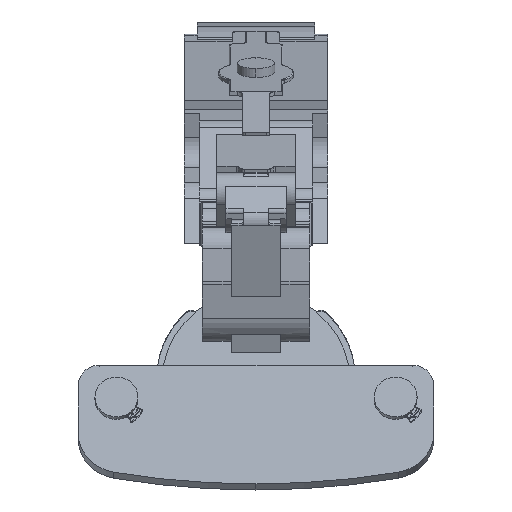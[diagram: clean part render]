
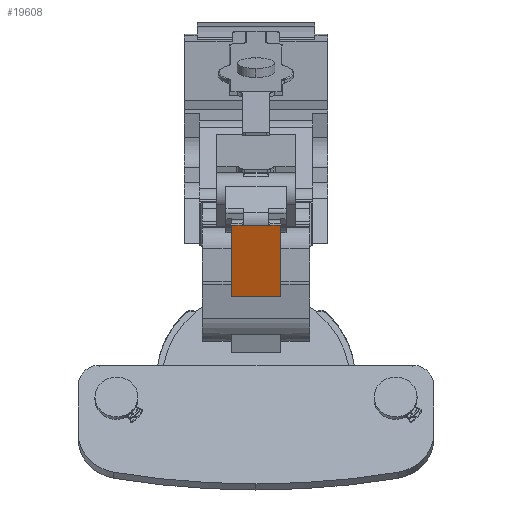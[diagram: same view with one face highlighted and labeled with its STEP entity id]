
A CAD part, top view. The second image highlights one B-rep face of the part: STEP entity #19608.
In plain terms, the highlighted planar face has unit normal (0, -0.343, 0.939).
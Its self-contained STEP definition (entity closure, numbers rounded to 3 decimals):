
#1147 = CARTESIAN_POINT ( 'NONE',  ( 17.843, 45.478, 100.393 ) ) ;
#1212 = VECTOR ( 'NONE', #10719, 1000. ) ;
#1538 = VECTOR ( 'NONE', #23998, 1000. ) ;
#2001 = EDGE_CURVE ( 'NONE', #26552, #29983, #31676, .T. ) ;
#2599 = VERTEX_POINT ( 'NONE', #31758 ) ;
#3877 = EDGE_CURVE ( 'NONE', #9944, #21295, #12889, .T. ) ;
#4025 = CARTESIAN_POINT ( 'NONE',  ( 17.443, 58.775, 105.249 ) ) ;
#4951 = DIRECTION ( 'NONE',  ( 1., 0., 0. ) ) ;
#4998 = CARTESIAN_POINT ( 'NONE',  ( 19.693, 58.775, 105.249 ) ) ;
#5673 = EDGE_CURVE ( 'NONE', #26552, #9944, #20906, .T. ) ;
#5859 = VECTOR ( 'NONE', #11807, 1000. ) ;
#6102 = CARTESIAN_POINT ( 'NONE',  ( 27.043, 58.775, 105.249 ) ) ;
#6540 = PLANE ( 'NONE',  #18871 ) ;
#7505 = EDGE_CURVE ( 'NONE', #24544, #21295, #11066, .T. ) ;
#9168 = ORIENTED_EDGE ( 'NONE', *, *, #14001, .F. ) ;
#9352 = CARTESIAN_POINT ( 'NONE',  ( 27.043, 30.63, 94.97 ) ) ;
#9944 = VERTEX_POINT ( 'NONE', #1147 ) ;
#10719 = DIRECTION ( 'NONE',  ( 1., 0., 0. ) ) ;
#10870 = VECTOR ( 'NONE', #10905, 1000. ) ;
#10905 = DIRECTION ( 'NONE',  ( 0., -0.939, -0.343 ) ) ;
#11066 = LINE ( 'NONE', #6102, #10870 ) ;
#11807 = DIRECTION ( 'NONE',  ( 1., 0., 0. ) ) ;
#11985 = DIRECTION ( 'NONE',  ( -1., 0., 0. ) ) ;
#12889 = LINE ( 'NONE', #30919, #1212 ) ;
#13014 = ORIENTED_EDGE ( 'NONE', *, *, #3877, .T. ) ;
#13799 = DIRECTION ( 'NONE',  ( 0., -0.939, -0.343 ) ) ;
#14001 = EDGE_CURVE ( 'NONE', #29983, #2599, #30122, .T. ) ;
#14604 = CARTESIAN_POINT ( 'NONE',  ( 27.043, 45.478, 100.393 ) ) ;
#15041 = ORIENTED_EDGE ( 'NONE', *, *, #7505, .F. ) ;
#15166 = VECTOR ( 'NONE', #13799, 1000. ) ;
#15319 = EDGE_LOOP ( 'NONE', ( #32321, #26245, #13014, #15041, #20076, #9168 ) ) ;
#18015 = VECTOR ( 'NONE', #4951, 1000. ) ;
#18871 = AXIS2_PLACEMENT_3D ( 'NONE', #9352, #32023, #11985 ) ;
#19608 = ADVANCED_FACE ( 'NONE', ( #26550 ), #6540, .F. ) ;
#20076 = ORIENTED_EDGE ( 'NONE', *, *, #21556, .F. ) ;
#20906 = LINE ( 'NONE', #31027, #15166 ) ;
#21295 = VERTEX_POINT ( 'NONE', #14604 ) ;
#21348 = CARTESIAN_POINT ( 'NONE',  ( 24.693, 58.775, 105.249 ) ) ;
#21556 = EDGE_CURVE ( 'NONE', #2599, #24544, #26962, .T. ) ;
#23998 = DIRECTION ( 'NONE',  ( 1., 0., 0. ) ) ;
#24141 = CARTESIAN_POINT ( 'NONE',  ( 27.043, 58.775, 105.249 ) ) ;
#24544 = VERTEX_POINT ( 'NONE', #24141 ) ;
#25756 = CARTESIAN_POINT ( 'NONE',  ( 17.843, 58.775, 105.249 ) ) ;
#26245 = ORIENTED_EDGE ( 'NONE', *, *, #5673, .T. ) ;
#26550 = FACE_OUTER_BOUND ( 'NONE', #15319, .T. ) ;
#26552 = VERTEX_POINT ( 'NONE', #25756 ) ;
#26962 = LINE ( 'NONE', #21348, #1538 ) ;
#27628 = CARTESIAN_POINT ( 'NONE',  ( 17.443, 58.775, 105.249 ) ) ;
#29983 = VERTEX_POINT ( 'NONE', #4998 ) ;
#30122 = LINE ( 'NONE', #27628, #18015 ) ;
#30919 = CARTESIAN_POINT ( 'NONE',  ( 27.043, 45.478, 100.393 ) ) ;
#31027 = CARTESIAN_POINT ( 'NONE',  ( 17.843, 58.775, 105.249 ) ) ;
#31676 = LINE ( 'NONE', #4025, #5859 ) ;
#31758 = CARTESIAN_POINT ( 'NONE',  ( 25.193, 58.775, 105.249 ) ) ;
#32023 = DIRECTION ( 'NONE',  ( 0., 0.343, -0.939 ) ) ;
#32321 = ORIENTED_EDGE ( 'NONE', *, *, #2001, .F. ) ;
